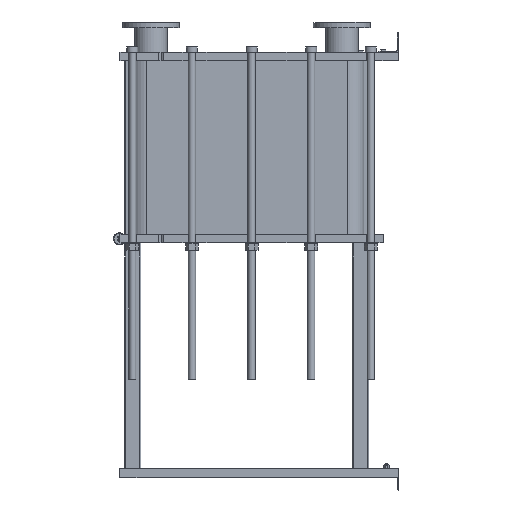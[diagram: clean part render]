
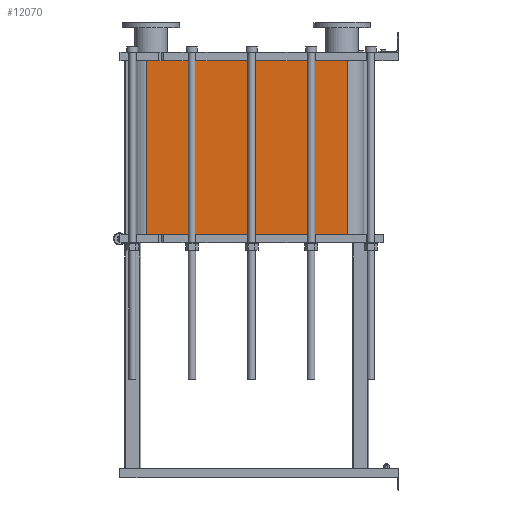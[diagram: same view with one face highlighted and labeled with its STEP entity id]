
A CAD part, left-side view. The second image highlights one B-rep face of the part: STEP entity #12070.
In plain terms, the highlighted planar face has unit normal (-1, 0, 0).
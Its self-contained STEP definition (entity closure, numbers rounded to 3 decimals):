
#1064=LINE('',#21140,#2164);
#1065=LINE('',#21144,#2165);
#1066=LINE('',#21146,#2166);
#1067=LINE('',#21147,#2167);
#2164=VECTOR('',#15790,10.);
#2165=VECTOR('',#15795,10.);
#2166=VECTOR('',#15796,10.);
#2167=VECTOR('',#15797,10.);
#3304=FACE_OUTER_BOUND('',#4091,.T.);
#4091=EDGE_LOOP('',(#9793,#9794,#9795,#9796));
#5677=VERTEX_POINT('',#21137);
#5678=VERTEX_POINT('',#21139);
#5679=VERTEX_POINT('',#21143);
#5680=VERTEX_POINT('',#21145);
#7118=EDGE_CURVE('',#5678,#5677,#1064,.T.);
#7120=EDGE_CURVE('',#5677,#5679,#1065,.T.);
#7121=EDGE_CURVE('',#5680,#5679,#1066,.T.);
#7122=EDGE_CURVE('',#5680,#5678,#1067,.T.);
#9793=ORIENTED_EDGE('',*,*,#7120,.T.);
#9794=ORIENTED_EDGE('',*,*,#7121,.F.);
#9795=ORIENTED_EDGE('',*,*,#7122,.T.);
#9796=ORIENTED_EDGE('',*,*,#7118,.T.);
#11441=PLANE('',#13191);
#12070=ADVANCED_FACE('',(#3304),#11441,.T.);
#13191=AXIS2_PLACEMENT_3D('',#21142,#15793,#15794);
#15790=DIRECTION('',(0.,0.,-1.));
#15793=DIRECTION('center_axis',(-1.,0.,0.));
#15794=DIRECTION('ref_axis',(0.,1.,0.));
#15795=DIRECTION('',(0.,-1.,0.));
#15796=DIRECTION('',(0.,0.,-1.));
#15797=DIRECTION('',(0.,1.,0.));
#21137=CARTESIAN_POINT('',(-248.152,1243.818,-859.05));
#21139=CARTESIAN_POINT('',(-248.152,1243.818,0.));
#21140=CARTESIAN_POINT('',(-248.152,1243.818,0.));
#21142=CARTESIAN_POINT('Origin',(-248.152,251.818,0.));
#21143=CARTESIAN_POINT('',(-248.152,251.818,-859.05));
#21144=CARTESIAN_POINT('',(-248.152,499.818,-859.05));
#21145=CARTESIAN_POINT('',(-248.152,251.818,0.));
#21146=CARTESIAN_POINT('',(-248.152,251.818,0.));
#21147=CARTESIAN_POINT('',(-248.152,251.818,0.));
